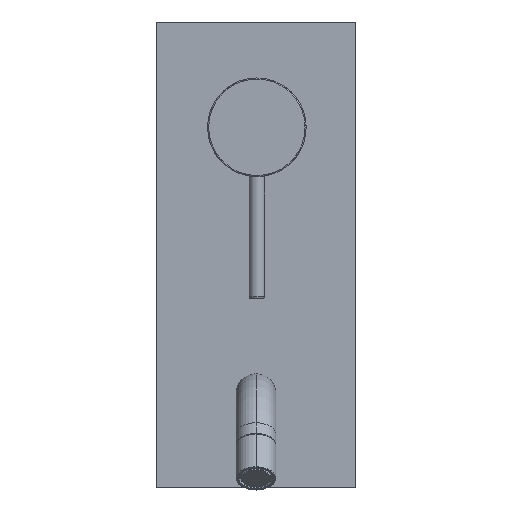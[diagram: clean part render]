
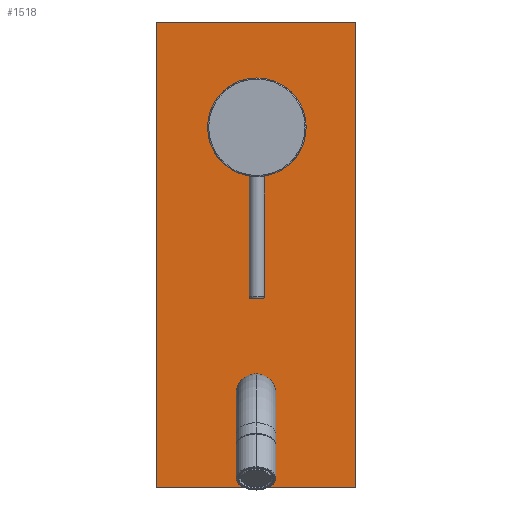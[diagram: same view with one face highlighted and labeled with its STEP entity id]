
A CAD part, top view. The second image highlights one B-rep face of the part: STEP entity #1518.
In plain terms, the highlighted planar face has unit normal (0, 0, 1).
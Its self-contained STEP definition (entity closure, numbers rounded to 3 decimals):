
#538=DIRECTION('',(0.,-1.,0.));
#539=VECTOR('',#538,210.);
#540=CARTESIAN_POINT('',(45.,105.,0.));
#541=LINE('',#540,#539);
#542=DIRECTION('',(-1.,0.,0.));
#543=VECTOR('',#542,90.);
#544=CARTESIAN_POINT('',(45.,-105.,0.));
#545=LINE('',#544,#543);
#546=DIRECTION('',(0.,1.,0.));
#547=VECTOR('',#546,210.);
#548=CARTESIAN_POINT('',(-45.,-105.,0.));
#549=LINE('',#548,#547);
#550=DIRECTION('',(1.,0.,0.));
#551=VECTOR('',#550,90.);
#552=CARTESIAN_POINT('',(-45.,105.,0.));
#553=LINE('',#552,#551);
#554=CARTESIAN_POINT('',(0.,57.,0.));
#555=DIRECTION('',(0.,0.,1.));
#556=DIRECTION('',(-1.,0.,0.));
#557=AXIS2_PLACEMENT_3D('',#554,#555,#556);
#559=CARTESIAN_POINT('',(0.,57.,0.));
#560=DIRECTION('',(0.,0.,1.));
#561=DIRECTION('',(1.,0.,0.));
#562=AXIS2_PLACEMENT_3D('',#559,#560,#561);
#564=CARTESIAN_POINT('',(0.,-63.,0.));
#565=DIRECTION('',(0.,0.,1.));
#566=DIRECTION('',(0.,1.,0.));
#567=AXIS2_PLACEMENT_3D('',#564,#565,#566);
#569=CARTESIAN_POINT('',(0.,-63.,0.));
#570=DIRECTION('',(0.,0.,1.));
#571=DIRECTION('',(0.,-1.,0.));
#572=AXIS2_PLACEMENT_3D('',#569,#570,#571);
#925=CARTESIAN_POINT('',(45.,105.,0.));
#926=CARTESIAN_POINT('',(45.,-105.,0.));
#927=VERTEX_POINT('',#925);
#928=VERTEX_POINT('',#926);
#929=CARTESIAN_POINT('',(-45.,-105.,0.));
#930=VERTEX_POINT('',#929);
#931=CARTESIAN_POINT('',(-45.,105.,0.));
#932=VERTEX_POINT('',#931);
#949=CARTESIAN_POINT('',(-20.5,57.,0.));
#950=CARTESIAN_POINT('',(20.5,57.,0.));
#951=VERTEX_POINT('',#949);
#952=VERTEX_POINT('',#950);
#1013=CARTESIAN_POINT('',(0.,-54.2,0.));
#1014=CARTESIAN_POINT('',(0.,-71.8,0.));
#1015=VERTEX_POINT('',#1013);
#1016=VERTEX_POINT('',#1014);
#1492=CARTESIAN_POINT('',(0.,0.,0.));
#1493=DIRECTION('',(0.,0.,-1.));
#1494=DIRECTION('',(-1.,0.,0.));
#1495=AXIS2_PLACEMENT_3D('',#1492,#1493,#1494);
#1496=PLANE('',#1495);
#1498=ORIENTED_EDGE('',*,*,#1497,.T.);
#1500=ORIENTED_EDGE('',*,*,#1499,.T.);
#1502=ORIENTED_EDGE('',*,*,#1501,.T.);
#1504=ORIENTED_EDGE('',*,*,#1503,.T.);
#1505=EDGE_LOOP('',(#1498,#1500,#1502,#1504));
#1506=FACE_OUTER_BOUND('',#1505,.F.);
#1507=ORIENTED_EDGE('',*,*,#1482,.T.);
#1509=ORIENTED_EDGE('',*,*,#1508,.T.);
#1510=EDGE_LOOP('',(#1507,#1509));
#1511=FACE_BOUND('',#1510,.F.);
#1513=ORIENTED_EDGE('',*,*,#1512,.T.);
#1515=ORIENTED_EDGE('',*,*,#1514,.T.);
#1516=EDGE_LOOP('',(#1513,#1515));
#1517=FACE_BOUND('',#1516,.F.);
#1518=ADVANCED_FACE('',(#1506,#1511,#1517),#1496,.F.);
#558=CIRCLE('',#557,20.5);
#563=CIRCLE('',#562,20.5);
#568=CIRCLE('',#567,8.8);
#573=CIRCLE('',#572,8.8);
#1482=EDGE_CURVE('',#951,#952,#558,.T.);
#1497=EDGE_CURVE('',#927,#928,#541,.T.);
#1499=EDGE_CURVE('',#928,#930,#545,.T.);
#1501=EDGE_CURVE('',#930,#932,#549,.T.);
#1503=EDGE_CURVE('',#932,#927,#553,.T.);
#1508=EDGE_CURVE('',#952,#951,#563,.T.);
#1512=EDGE_CURVE('',#1015,#1016,#568,.T.);
#1514=EDGE_CURVE('',#1016,#1015,#573,.T.);
